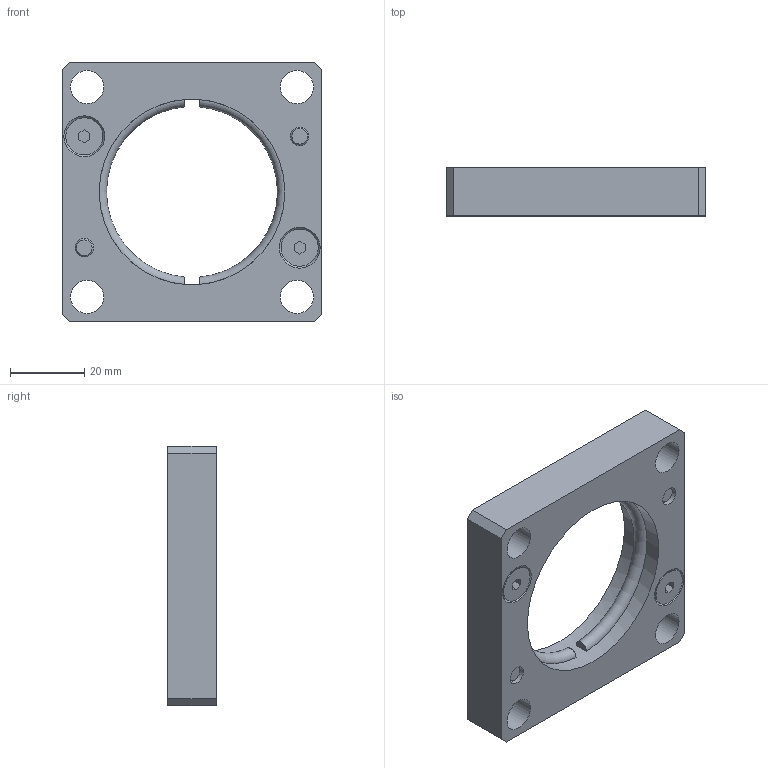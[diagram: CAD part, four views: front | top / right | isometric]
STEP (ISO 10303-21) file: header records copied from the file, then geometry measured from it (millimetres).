
FILE_DESCRIPTION(/* description */ (''),/* implementation_level */ '2;1');
FILE_NAME(/* name */ 'C:\Users\Jefferson\Desktop\Biblioteca Pro Nitro 2024 - Inventor\Flanges\PNB-65-XXX\PNB-65-050.stp',/* time_stamp */ '2024-12-30T14:02:38-03:00',/* author */ ('Jefferson'),/* organization */ (''),/* preprocessor_version */ 'ST-DEVELOPER v19',/* originating_system */ 'Autodesk Inventor 2023',/* authorisation */ '');
FILE_SCHEMA (('AUTOMOTIVE_DESIGN { 1 0 10303 214 3 1 1 }'));
Length unit declared in the file: millimetre
Products named in the file (3): PNB-65-050; DNB-0016-050; DIN 7991 - M5x12
Assembly tree (5 placements, depth 2):
  PNB-65-050
    DNB-0016-050
    DIN 7991 - M5x12  x4
Bounding box: 70 x 13 x 70 mm (x, y, z)
Volume: 35444.2 mm3; surface area: 14786.7 mm2
Topology: 5 solids, 5 shells, 244 faces, 633 edges, 420 vertices
Faces by surface type: plane 118, bspline 91, cylinder 17, cone 12, torus 6
Full cylindrical faces by diameter (mm): 5 x8, 9 x4, 10 x4, 50 x1
Entity records: 6978 total; most frequent: CARTESIAN_POINT 2355, ORIENTED_EDGE 1074, DIRECTION 629, EDGE_CURVE 537, VERTEX_POINT 357, LINE 311, VECTOR 311, EDGE_LOOP 238
